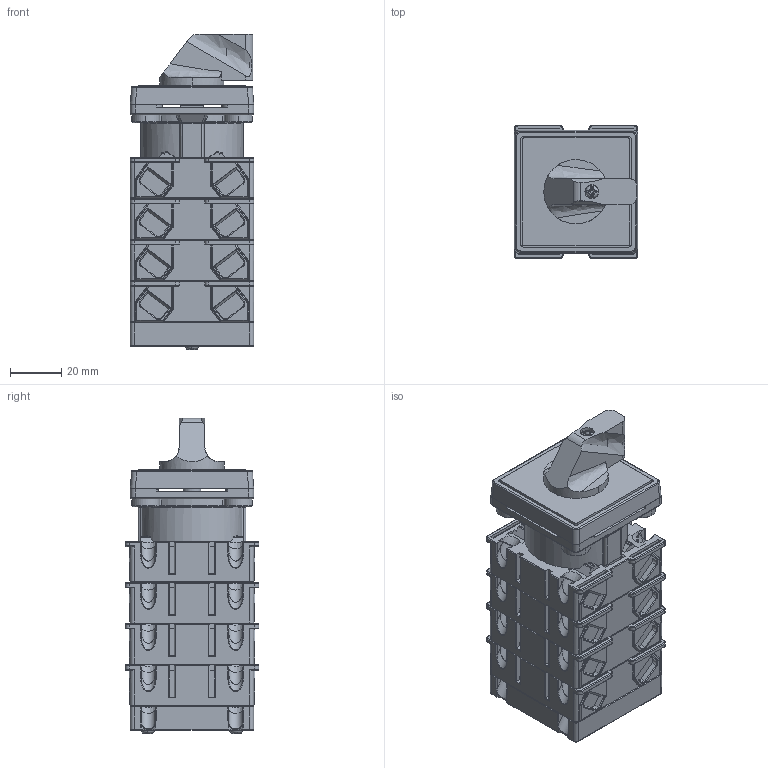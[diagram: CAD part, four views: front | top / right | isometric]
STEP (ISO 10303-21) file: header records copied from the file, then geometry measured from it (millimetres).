
FILE_DESCRIPTION (( 'STEP AP214' ), '1' );
FILE_NAME ('Ïåðåêëþ÷àòåëü 4G16, 25-XXXX-U-R114 ÃÆÈÊ.642212 4ê.STEP', '2024-07-31T08:12:01', ( '' ), ( '' ), 'SwSTEP 2.0', 'SolidWorks 2018', '' );
FILE_SCHEMA (( 'AUTOMOTIVE_DESIGN' ));
Length unit declared in the file: millimetre
Products named in the file (1): Ïåðåêëþ÷àòåëü 4G16, 25-XXXX-U-R114 ÃÆÈÊ.642212 4ê
Bounding box: 48 x 52 x 122.6 mm (x, y, z)
Volume: 196968.2 mm3; surface area: 88159.5 mm2
Topology: 18 solids, 50 shells, 5032 faces, 13239 edges, 8368 vertices
Faces by surface type: plane 2829, cylinder 1573, torus 258, cone 207, bspline 101, sphere 64
Entity records: 237316 total; most frequent: CARTESIAN_POINT 59591, ORIENTED_EDGE 26360, DIRECTION 24669, EDGE_CURVE 13180, VECTOR 8891, LINE 8891, VERTEX_POINT 8356, AXIS2_PLACEMENT_3D 7889
